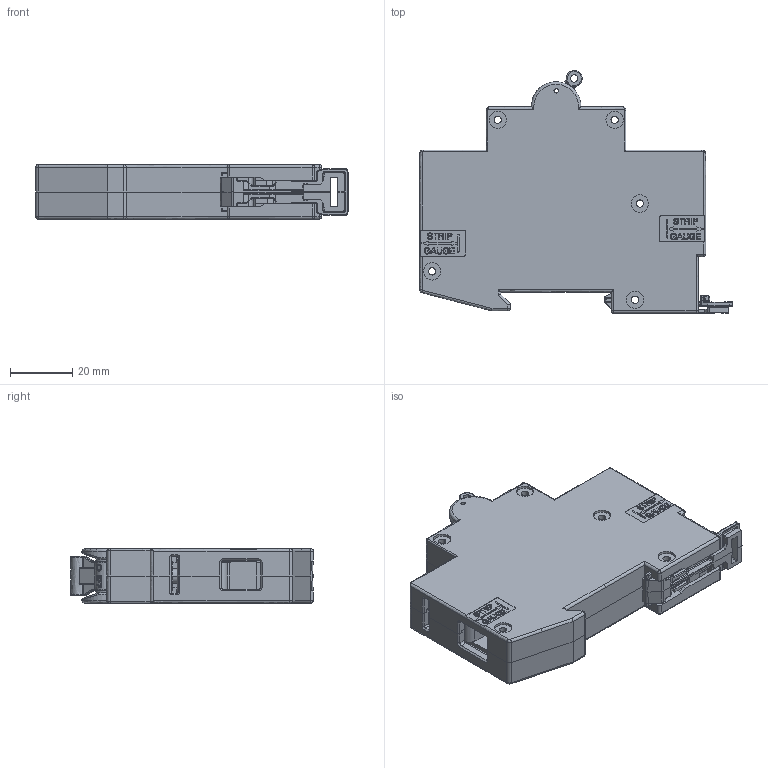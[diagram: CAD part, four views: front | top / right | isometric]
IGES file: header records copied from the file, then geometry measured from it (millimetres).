
Global section: file name: No Iges File Name specified; native system: Autodesk Inventor 2011; preprocessor: AutoDesk Inventor Iges Exporter R2011; author: oey; date: 20110218.123913; units: inch
Bounding box: 100.66 x 78.17 x 17.48 mm (x, y, z)
Surface area: 40875.7 mm2 (no closed solid volume)
Topology: 0 solids, 0 shells, 2083 faces, 15954 edges, 15937 vertices
Faces by surface type: plane 1191, revolution 785, bspline 107
